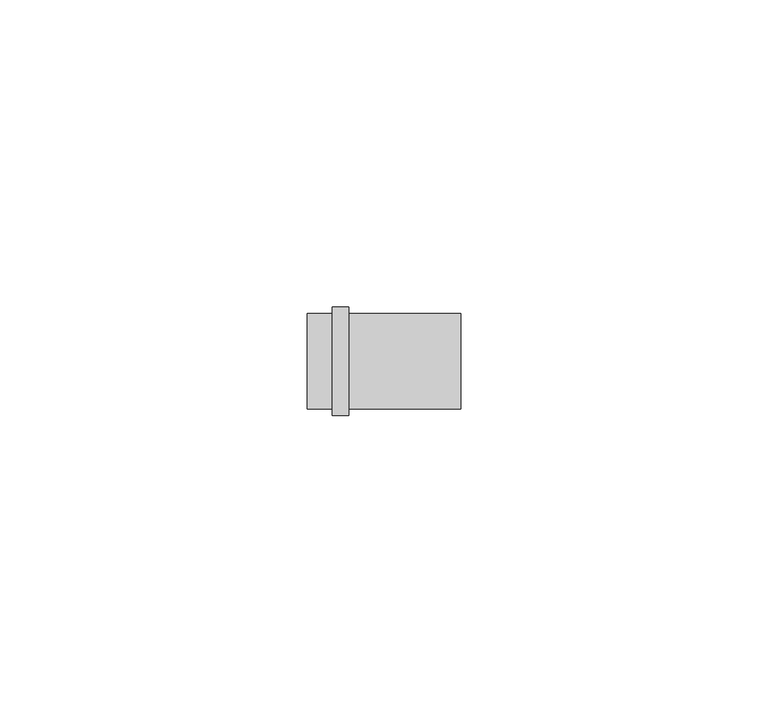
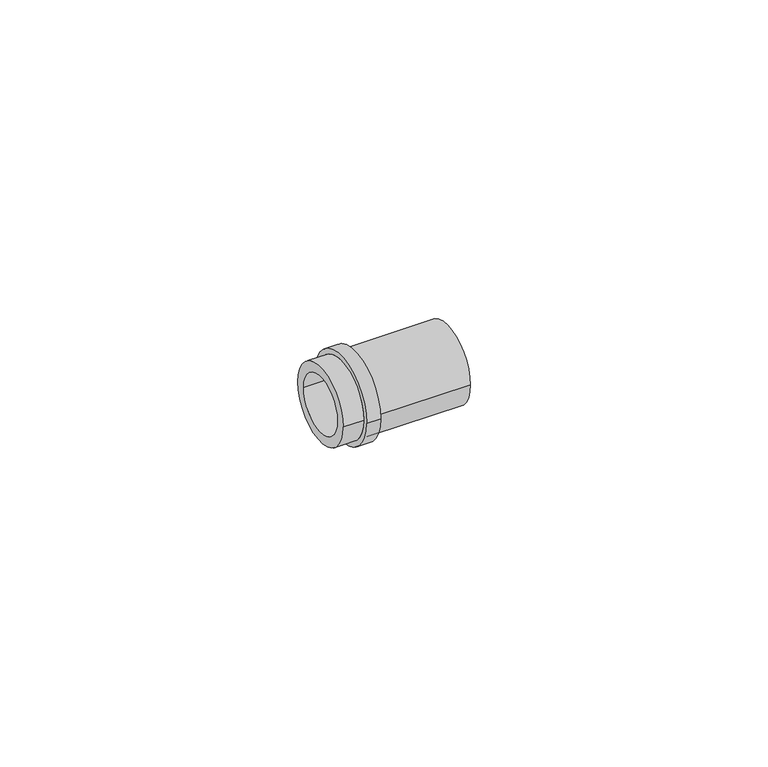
"""IFC4 building model written with IfcOpenShell, lengths in millimetres: pipe fitting geometry, FASTLOC_Blanking plug LX : FSL Bp LX PL."""

from ifc_helpers import new_model, si_unit, frame, origin, place, context, project, spatial, polyline, circle_curve, source, transform, mapped, element, save
from ifc_brep_helpers import plane_surface, cylinder_surface, revolved_surface, advanced_brep


def pipe_fitting_00778674(model_context):
    return source(origin(), model_context, "Body", "AdvancedBrep", [
        advanced_brep(
        [(0.0, 5.75, 0.0), (0.0, -5.75, 0.0), (24.9, -5.75, 0.0), (24.9, 5.75, 0.0), (4.0, 7.75, 0.0), (4.0, -7.75, 0.0), (0.0, -7.75, 0.0), (0.0, 7.75, 0.0), (6.7, 8.8, 0.0), (6.7, -8.8, 0.0), (4.0, -8.8, 0.0), (4.0, 8.8, 0.0), (24.9, 7.75, 0.0), (24.9, -7.75, 0.0), (6.7, -7.75, 0.0), (6.7, 7.75, 0.0)],
        [
            (0, 1, circle_curve(frame((0.0, 0.0, 0.0), z_axis=(-1.0, 0.0, 0.0), x_axis=(0.0, -1.0, 0.0)), 5.75)),
            (1, 2),
            (2, 3, circle_curve(frame((24.9, 0.0, 0.0), z_axis=(1.0, 0.0, 0.0), x_axis=(0.0, -1.0, 0.0)), 5.75)),
            (3, 0),
            (4, 5, circle_curve(frame((4.0, 0.0, 0.0), z_axis=(-1.0, 0.0, 0.0), x_axis=(0.0, -1.0, 0.0)), 7.75)),
            (5, 6),
            (6, 7, circle_curve(frame((0.0, 0.0, 0.0), z_axis=(1.0, 0.0, 0.0), x_axis=(0.0, -1.0, 0.0)), 7.75)),
            (7, 4),
            (8, 9, circle_curve(frame((6.7, 0.0, 0.0), z_axis=(-1.0, 0.0, 0.0), x_axis=(0.0, -1.0, 0.0)), 8.8)),
            (9, 10),
            (10, 11, circle_curve(frame((4.0, 0.0, 0.0), z_axis=(1.0, 0.0, 0.0), x_axis=(0.0, -1.0, 0.0)), 8.8)),
            (11, 8),
            (12, 13, circle_curve(frame((24.9, 0.0, 0.0), z_axis=(-1.0, 0.0, 0.0), x_axis=(0.0, -1.0, 0.0)), 7.75)),
            (13, 14),
            (14, 15, circle_curve(frame((6.7, 0.0, 0.0), z_axis=(1.0, 0.0, 0.0), x_axis=(0.0, -1.0, 0.0)), 7.75)),
            (15, 12),
            (1, 0, circle_curve(frame((0.0, 0.0, 0.0), z_axis=(-1.0, 0.0, 0.0), x_axis=(0.0, 1.0, 0.0)), 5.75)),
            (3, 2, circle_curve(frame((24.9, 0.0, 0.0), z_axis=(1.0, 0.0, 0.0), x_axis=(0.0, 1.0, 0.0)), 5.75)),
            (6, 7, circle_curve(frame((0.0, 0.0, 0.0), z_axis=(-1.0, 0.0, 0.0), x_axis=(0.0, 1.0, 0.0)), 7.75)),
            (5, 4, circle_curve(frame((4.0, 0.0, 0.0), z_axis=(-1.0, 0.0, 0.0), x_axis=(0.0, 1.0, 0.0)), 7.75)),
            (10, 11, circle_curve(frame((4.0, 0.0, 0.0), z_axis=(-1.0, 0.0, 0.0), x_axis=(0.0, 1.0, 0.0)), 8.8)),
            (9, 8, circle_curve(frame((6.7, 0.0, 0.0), z_axis=(-1.0, 0.0, 0.0), x_axis=(0.0, 1.0, 0.0)), 8.8)),
            (14, 15, circle_curve(frame((6.7, 0.0, 0.0), z_axis=(-1.0, 0.0, 0.0), x_axis=(0.0, 1.0, 0.0)), 7.75)),
            (13, 12, circle_curve(frame((24.9, 0.0, 0.0), z_axis=(-1.0, 0.0, 0.0), x_axis=(0.0, 1.0, 0.0)), 7.75)),
        ],
        [
            revolved_surface(polyline([(24.9, -5.75, 0.0), (0.0, -5.75, 0.0)]), (0.0, 0.0, 0.0), (1.0, 0.0, 0.0)),
            cylinder_surface(frame((0.0, 0.0, 0.0), z_axis=(1.0, 0.0, 0.0), x_axis=(0.0, -1.0, 0.0)), 7.75),
            cylinder_surface(frame((0.0, 0.0, 0.0), z_axis=(1.0, 0.0, 0.0), x_axis=(0.0, -1.0, 0.0)), 8.8),
            revolved_surface(polyline([(24.9, 5.75, 0.0), (0.0, 5.75, 0.0)]), (0.0, 0.0, 0.0), (1.0, 0.0, 0.0)),
            plane_surface(frame((0.0, 0.0, 0.0), z_axis=(-1.0, 0.0, 0.0), x_axis=(0.0, 1.0, 0.0))),
            cylinder_surface(frame((0.0, 0.0, 0.0), z_axis=(1.0, 0.0, 0.0), x_axis=(0.0, 1.0, 0.0)), 7.75),
            plane_surface(frame((4.0, 0.0, 0.0), z_axis=(-1.0, 0.0, 0.0), x_axis=(0.0, 1.0, 0.0))),
            cylinder_surface(frame((0.0, 0.0, 0.0), z_axis=(1.0, 0.0, 0.0), x_axis=(0.0, 1.0, 0.0)), 8.8),
            plane_surface(frame((6.7, 0.0, 0.0), z_axis=(1.0, 0.0, 0.0), x_axis=(0.0, 1.0, 0.0))),
            plane_surface(frame((24.9, 0.0, 0.0), z_axis=(1.0, 0.0, 0.0), x_axis=(0.0, 1.0, 0.0))),
        ],
        [
            (0, [[1, 2, 3, 4]]),
            (1, [[5, 6, 7, 8]]),
            (2, [[9, 10, 11, 12]]),
            (1, [[13, 14, 15, 16]]),
            (3, [[17, -4, 18, -2]]),
            (4, [[19, -7], [-17, -1]]),
            (5, [[20, -8, -19, -6]]),
            (6, [[21, -11], [-20, -5]]),
            (7, [[22, -12, -21, -10]]),
            (8, [[-22, -9], [23, -15]]),
            (5, [[24, -16, -23, -14]]),
            (9, [[-24, -13], [-18, -3]]),
        ],
    ),
    ])


if __name__ == "__main__":
    model = new_model("IFC4")
    model_context = context("Model", 3, world=origin())
    ifc_project = project(units=[si_unit("LENGTHUNIT", "METRE", prefix="MILLI")], contexts=[model_context])
    site = spatial("IfcSite", under=ifc_project)
    building = spatial("IfcBuilding", under=site)
    placement = place(None, origin())
    pipe_fitting_shape = pipe_fitting_00778674(model_context)
    element("IfcPipeFitting", 1, ObjectType="FASTLOC_Blanking plug LX : FSL Bp LX PL", at=placement, inside=building, context=model_context, shape_type="MappedRepresentation", body=[
        mapped(pipe_fitting_shape, transform((0.0, 0.0, 0.0), x_axis=(1.0, 0.0, 0.0), y_axis=(0.0, 1.0, 0.0), z_axis=(0.0, 0.0, 1.0))),
    ])
    save(model, "model.ifc")
